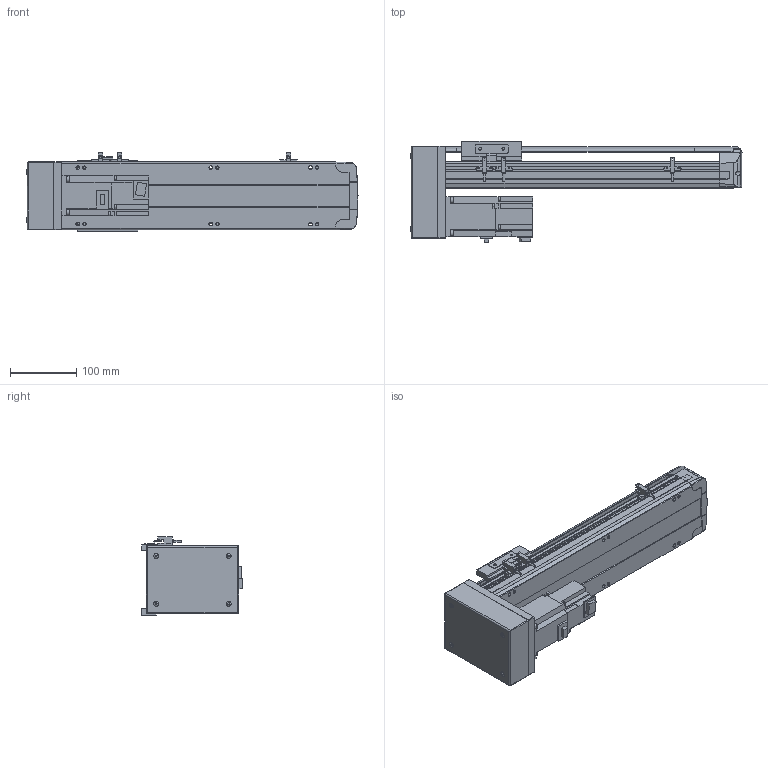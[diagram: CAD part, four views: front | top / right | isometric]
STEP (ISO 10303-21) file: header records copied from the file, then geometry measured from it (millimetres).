
FILE_DESCRIPTION( ( 'STEP AP214' ), '1' );
FILE_NAME( 'x:/temp/worker_27/temp/exporttempdir_6708_70_kFnZA/format_0/PSS120-L10-S250-BM-T40-C1-N(0).stp', '2022-06-06T00:26:07', ( 'License CC BY-ND 4.0' ), ( 'CADENAS' ), ' ', 'PARTsolutions', ' ' );
FILE_SCHEMA( ( 'AUTOMOTIVE_DESIGN { 1 0 10303 214 1 1 1 1 }' ) );
Length unit declared in the file: millimetre
Products named in the file (8): PSS120-L10-S250-BM-T40-C1-N(0); _PSS120-S250-BM-C1-N_body; _PSS120-N_Q; _PSS120-BM-C1-N_sl; _PSS120-N_sensor; _PSS120BM-N_h; _T40-p1; _PSS120-S250-BM-N_S
Assembly tree (9 placements, depth 2):
  PSS120-L10-S250-BM-T40-C1-N(0)
    _PSS120-S250-BM-C1-N_body
    _PSS120-N_Q
    _PSS120-BM-C1-N_sl
    _PSS120-N_sensor  x3
    _PSS120BM-N_h
    _T40-p1
    _PSS120-S250-BM-N_S
Bounding box: 499.35 x 151.8 x 117.7 mm (x, y, z)
Volume: 2604602.2 mm3; surface area: 416578 mm2
Topology: 9 solids, 9 shells, 793 faces, 2141 edges, 1422 vertices
Faces by surface type: plane 562, cylinder 213, cone 14, sphere 4
Full cylindrical faces by diameter (mm): 2.8 x3, 4 x4, 4.134 x10, 4.4 x2, 4.5 x4, 4.6 x3, 5 x6, 5.5 x13, 7 x2, 7.4 x4, 8 x4, 8.5 x10, 14 x1, 28 x1, 32 x2, 50 x1
Entity records: 27193 total; most frequent: CARTESIAN_POINT 4196, DIRECTION 3557, ORIENTED_EDGE 3514, EDGE_CURVE 1757, LINE 1275, VECTOR 1275, VERTEX_POINT 1214, AXIS2_PLACEMENT_3D 1141
